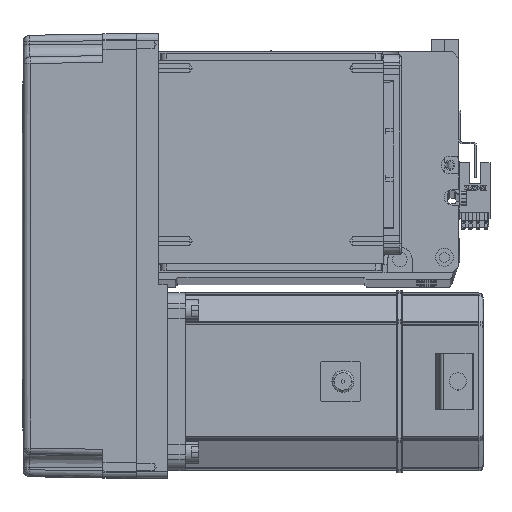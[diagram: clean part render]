
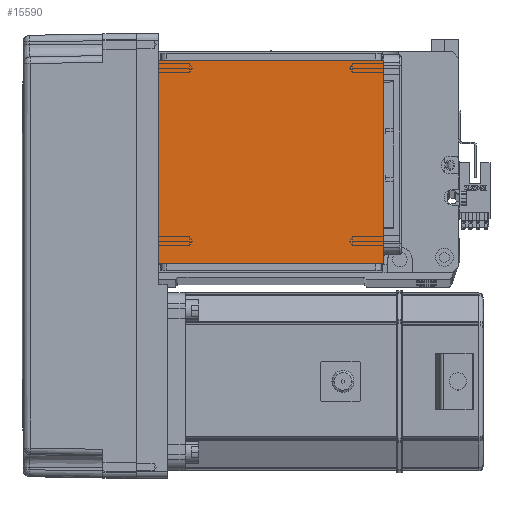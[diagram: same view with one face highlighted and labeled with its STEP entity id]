
A CAD part, top view. The second image highlights one B-rep face of the part: STEP entity #15590.
In plain terms, the highlighted planar face has unit normal (0, 0, 1).
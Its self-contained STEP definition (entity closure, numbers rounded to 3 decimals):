
#223 = PLANE ( 'NONE',  #52439 ) ;
#1587 = EDGE_CURVE ( 'NONE', #2661, #45910, #23502, .T. ) ;
#2661 = VERTEX_POINT ( 'NONE', #52162 ) ;
#3075 = EDGE_CURVE ( 'NONE', #23425, #45574, #45727, .T. ) ;
#7294 = CARTESIAN_POINT ( 'NONE',  ( -70.004, 20., 115. ) ) ;
#11557 = CARTESIAN_POINT ( 'NONE',  ( 50.5, 122., 115. ) ) ;
#14767 = ORIENTED_EDGE ( 'NONE', *, *, #3075, .T. ) ;
#14889 = CARTESIAN_POINT ( 'NONE',  ( 0., 0., 115. ) ) ;
#15268 = DIRECTION ( 'NONE',  ( 1., 0., 0. ) ) ;
#15590 = ADVANCED_FACE ( 'NONE', ( #23055 ), #223, .T. ) ;
#18808 = VECTOR ( 'NONE', #15268, 1000. ) ;
#19656 = EDGE_LOOP ( 'NONE', ( #45771, #14767, #41644, #20546 ) ) ;
#20546 = ORIENTED_EDGE ( 'NONE', *, *, #1587, .T. ) ;
#21964 = LINE ( 'NONE', #7294, #33215 ) ;
#22834 = CARTESIAN_POINT ( 'NONE',  ( 50.5, 111.5, 115. ) ) ;
#23055 = FACE_OUTER_BOUND ( 'NONE', #19656, .T. ) ;
#23425 = VERTEX_POINT ( 'NONE', #57063 ) ;
#23502 = LINE ( 'NONE', #11557, #51123 ) ;
#28526 = VECTOR ( 'NONE', #46047, 1000. ) ;
#29773 = CARTESIAN_POINT ( 'NONE',  ( -50.5, 20., 115. ) ) ;
#31453 = EDGE_CURVE ( 'NONE', #2661, #45574, #21964, .T. ) ;
#33075 = LINE ( 'NONE', #39125, #18808 ) ;
#33215 = VECTOR ( 'NONE', #45134, 1000. ) ;
#35218 = EDGE_CURVE ( 'NONE', #23425, #45910, #33075, .T. ) ;
#38142 = DIRECTION ( 'NONE',  ( 1., 0., 0. ) ) ;
#38347 = DIRECTION ( 'NONE',  ( 0., 0., 1. ) ) ;
#39125 = CARTESIAN_POINT ( 'NONE',  ( -70.004, 111.5, 115. ) ) ;
#41063 = CARTESIAN_POINT ( 'NONE',  ( -50.5, 122., 115. ) ) ;
#41644 = ORIENTED_EDGE ( 'NONE', *, *, #31453, .F. ) ;
#45134 = DIRECTION ( 'NONE',  ( -1., 0., 0. ) ) ;
#45574 = VERTEX_POINT ( 'NONE', #29773 ) ;
#45727 = LINE ( 'NONE', #41063, #28526 ) ;
#45771 = ORIENTED_EDGE ( 'NONE', *, *, #35218, .F. ) ;
#45910 = VERTEX_POINT ( 'NONE', #22834 ) ;
#46047 = DIRECTION ( 'NONE',  ( 0., -1., 0. ) ) ;
#49829 = DIRECTION ( 'NONE',  ( 0., 1., 0. ) ) ;
#51123 = VECTOR ( 'NONE', #49829, 1000. ) ;
#52162 = CARTESIAN_POINT ( 'NONE',  ( 50.5, 20., 115. ) ) ;
#52439 = AXIS2_PLACEMENT_3D ( 'NONE', #14889, #38347, #38142 ) ;
#57063 = CARTESIAN_POINT ( 'NONE',  ( -50.5, 111.5, 115. ) ) ;
